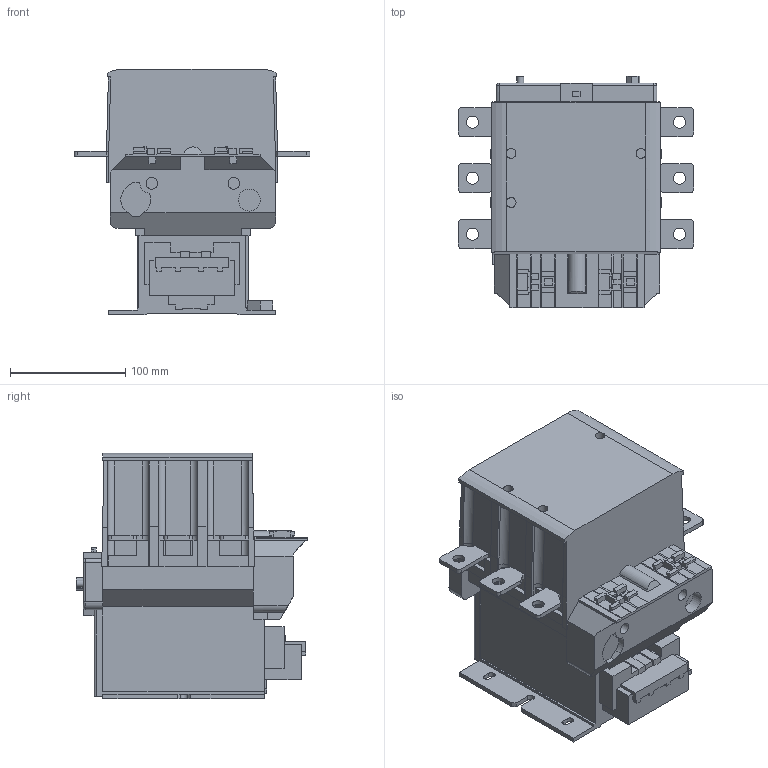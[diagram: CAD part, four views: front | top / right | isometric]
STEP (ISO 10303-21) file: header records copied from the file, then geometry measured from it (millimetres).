
FILE_DESCRIPTION(/* description */ (''),/* implementation_level */ '2;1');
FILE_NAME(/* name */ 'ck3-265.stp',/* time_stamp */ '2022-08-31T18:41:08+08:00',/* author */ (''),/* organization */ (''),/* preprocessor_version */ 'ST-DEVELOPER v14',/* originating_system */ 'SIEMENS PLM Software NX 8.0',/* authorisation */ '');
FILE_SCHEMA (('AP203_CONFIGURATION_CONTROLLED_3D_DESIGN_OF_MECHANICAL_PARTS_AND_ASSEMBLIES_MIM_LF { 1 0 10303 403 2 1 2}'));
Length unit declared in the file: millimetre
Products named in the file (1): Admi1E38C561gkpf
Bounding box: 204 x 200.4 x 212.6 mm (x, y, z)
Volume: 3858756.9 mm3; surface area: 221770.5 mm2
Topology: 1 solids, 1 shells, 555 faces, 1547 edges, 1009 vertices
Faces by surface type: plane 460, cylinder 91, torus 2, bspline 2
Full cylindrical faces by diameter (mm): 6 x1, 8.5 x4, 10 x4, 10.5 x6, 19 x2
Entity records: 17622 total; most frequent: CARTESIAN_POINT 3194, ORIENTED_EDGE 3054, DIRECTION 2818, EDGE_CURVE 1527, LINE 1330, VECTOR 1330, VERTEX_POINT 1006, AXIS2_PLACEMENT_3D 744
